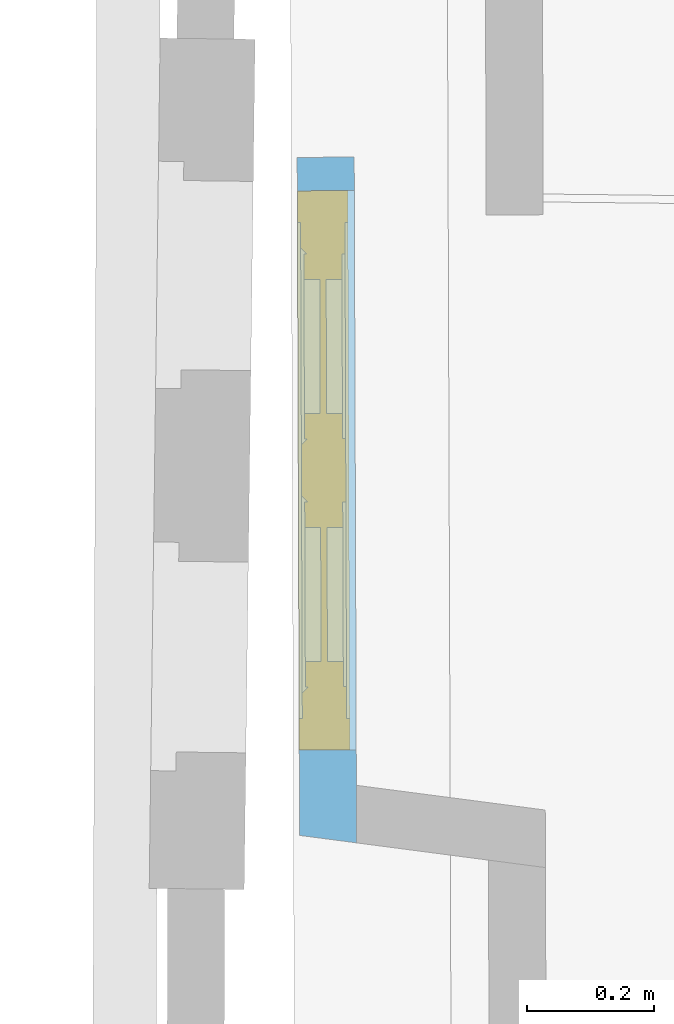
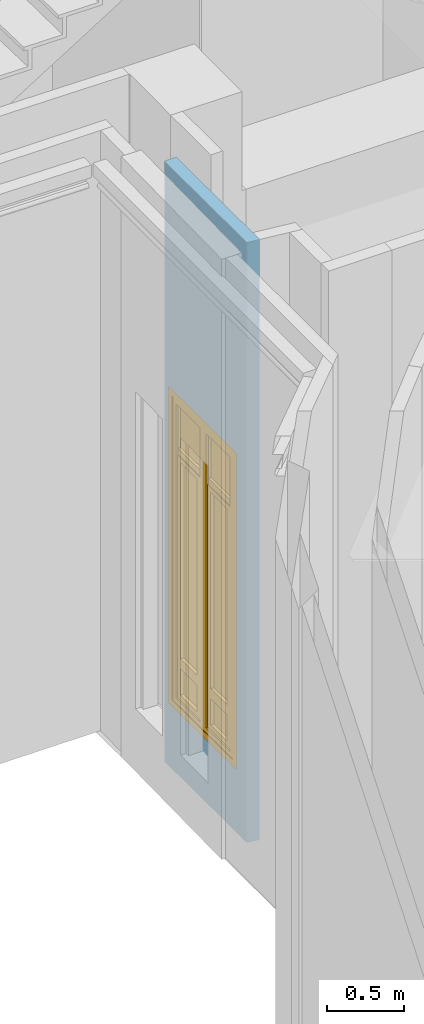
# One storey, part 44 of 97: 1 window, 1 opening, plus 1 element that does not belong to this part.
"""IFC2X3 building model written with IfcOpenShell, lengths in centimetres."""

from ifc_helpers import new_model, entity, si_unit, converted_unit, direction, frame, origin, origin_with_axes, place, context, subcontext, project, spatial, polyline, outline, extrude, faceted_brep, shape, source, transform, mapped, material, material_list, layer, layer_set, layer_usage, type_object, element, fill, save


model = new_model("IFC2X3")

# Units and contexts
model_context = context("Model", 3, precision=0.0001, world=origin(), true_north=direction((0.225632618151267, 0.974212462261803, 0.0)))
body_context = subcontext(model_context, "Body", "Model", "MODEL_VIEW")
footprint_context = subcontext(model_context, "FootPrint", "Model", "MODEL_VIEW")
profile_context = subcontext(model_context, "Profile", "Model", "MODEL_VIEW")
ifc_project = project(units=[si_unit("LENGTHUNIT", "METRE", prefix="CENTI"), si_unit("AREAUNIT", "SQUARE_METRE", prefix="CENTI"), si_unit("VOLUMEUNIT", "CUBIC_METRE", prefix="CENTI"), converted_unit("PLANEANGLEUNIT", "DEGREE", entity("IfcRatioMeasure", 0.0174532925), si_unit("PLANEANGLEUNIT", "RADIAN"), dimensions=[0, 0, 0, 0, 0, 0, 0])], contexts=[model_context])

# Site, building, storey
site_placement = place(None, origin_with_axes())
site = spatial("IfcSite", under=ifc_project, at=site_placement, Name="Default Site", CompositionType="ELEMENT")
building_placement = place(site_placement, origin_with_axes())
building = spatial("IfcBuilding", under=site, at=building_placement, Name="Default Building", CompositionType="ELEMENT")
storey_placement = place(building_placement, origin_with_axes())
storey = spatial("IfcBuildingStorey", under=building, at=storey_placement, Name="Rez-de-chaussée", CompositionType="ELEMENT", Elevation=0.0)

# Wall, opening, window
ifc_material_1 = material(Name="<aucun>")
ifc_layer = layer(ifc_material_1, 9.0)
ifc_layer_set = layer_set([ifc_layer], Name="default")
ifc_layer_usage = layer_usage(ifc_layer_set, "AXIS2", "POSITIVE", -4.5)
wall_type = type_object("IfcWallType", Name="default 90", PredefinedType="NOTDEFINED", material=ifc_layer_set)
wall_placement = place(storey_placement, frame((-1155.23434735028, -495.228623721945, 0.0128503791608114), z_axis=(0.0, 0.0, 1.0), x_axis=(-0.00344140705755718, 0.999994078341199, 0.0)))
wall = element("IfcWallStandardCase", 1, at=wall_placement, inside=storey, type_object=wall_type, material=ifc_layer_usage, Name="Enveloppe 665263", context=body_context, shape_type="SweptSolid", body=[
    extrude(outline(polyline([(103.126567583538, 4.49999999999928), (-3.93582932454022, 4.49999999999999), (-5.14504017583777, -4.49999999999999), (103.126567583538, -4.50000000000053), (103.126567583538, 4.49999999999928)])), frame((0.0, 0.0, 2.71050543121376e-18), z_axis=(0.0, 0.0, 1.0), x_axis=(1.0, 0.0, 0.0)), (0.0, 0.0, 1.0), 477.795358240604),
])
opening_placement = place(wall_placement, frame((9.51895918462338, 0.0, 49.9871496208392), z_axis=(0.0, 0.0, 1.0), x_axis=(-1.0, 4.68331970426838e-15, 0.0)))
cartesian_point_1 = entity("IfcCartesianPoint", [-8.88178419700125e-14, 1.77635683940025e-13, 252.0])
cartesian_point_2 = entity("IfcCartesianPoint", [-88.3246452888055, -4.49999999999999])
opening = element("IfcOpeningElement", 2, at=opening_placement, cuts=wall, Name="4294966463_11", ObjectType="Opening", shapes=[
    shape(body_context, "Body", "SweptSolid", [extrude(outline(polyline([(8.88178419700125e-14, 252.0), (0.0, 0.0), (88.3246452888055, 0.0), (88.3246452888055, 252.0), (8.88178419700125e-14, 252.0)])), frame((0.0, -14.5, 0.0), z_axis=(0.0, 1.0, 0.0), x_axis=(-1.0, 0.0, 0.0)), (0.0, 0.0, 1.0), 29.0)]),
    shape(profile_context, "Profile", "GeometricCurveSet", [entity("IfcGeometricCurveSet", [entity("IfcPolyline", [cartesian_point_1, entity("IfcCartesianPoint", [0.0, 1.77635683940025e-13, 0.0]), entity("IfcCartesianPoint", [-88.3246452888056, 0.0, 0.0]), entity("IfcCartesianPoint", [-88.3246452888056, 0.0, 252.0]), cartesian_point_1])])]),
    shape(footprint_context, "FootPrint", "GeometricCurveSet", [entity("IfcGeometricCurveSet", [entity("IfcPolyline", [cartesian_point_2, entity("IfcCartesianPoint", [0.0, -4.49999999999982]), entity("IfcCartesianPoint", [0.0, 4.49999999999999]), entity("IfcCartesianPoint", [-88.3246452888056, 4.49999999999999]), cartesian_point_2])])]),
])
ifc_material_2 = material(Name="Transparent")
ifc_material_3 = material(Name="Blanc trafic")
ifc_material_4 = material(Name="Aluminium satiné")
ifc_material_5 = material(Name="Blanc trafic")
ifc_material_list = material_list([ifc_material_2, ifc_material_3, ifc_material_4, ifc_material_5])
window_style = type_object("IfcWindowStyle", Name="FN[R] 2VB[2V] MM", ConstructionType="NOTDEFINED", OperationType="NOTDEFINED", ParameterTakesPrecedence=False, Sizeable=False, material=ifc_material_list)
shared_shape = source(origin_with_axes(), body_context, "Body", "Brep", [
    faceted_brep([(-39.1623228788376, 247.000002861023, -3.99999991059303), (-39.1623228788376, 247.000002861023, 3.99999991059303), (-39.1623228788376, 5.00000007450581, 3.99999991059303), (-39.1623228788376, 5.00000007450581, -3.99999991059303), (-44.1623240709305, 251.999998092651, 3.99999991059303), (-44.1623240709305, 0.0, 3.99999991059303), (-44.1623240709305, 251.999998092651, -3.99999991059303), (-44.1623240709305, 1.10053138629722e-30, -3.99999991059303), (-44.1623240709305, 1.10053138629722e-30, 3.99999991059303), (-44.1623240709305, 0.0, -3.99999991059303), (39.1623228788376, 5.0000000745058, 3.99999991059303), (39.1623228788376, 5.0000000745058, -3.99999991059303), (44.1623240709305, 0.0, 3.99999991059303), (39.1623228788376, 5.00000007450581, 3.99999991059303), (44.1623240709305, 0.0, -3.99999991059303), (39.1623228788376, 5.00000007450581, -3.99999991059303), (39.1623228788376, 247.000002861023, 3.99999991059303), (39.1623228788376, 247.000002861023, -3.99999991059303), (44.1623240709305, 251.999998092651, 3.99999991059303), (44.1623240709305, 251.999998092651, -3.99999991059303)], [[[0, 1, 2, 3]], [[1, 4, 5, 2]], [[4, 6, 7, 8]], [[6, 0, 3, 9]], [[3, 2, 10, 11]], [[2, 5, 12, 13]], [[5, 9, 14, 12]], [[9, 3, 15, 14]], [[15, 13, 16, 17]], [[13, 12, 18, 16]], [[12, 14, 19, 18]], [[14, 15, 17, 19]], [[17, 16, 1, 0]], [[16, 18, 4, 1]], [[18, 19, 6, 4]], [[19, 17, 0, 6]]]),
    faceted_brep([(-35.1623237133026, 243.00000667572, -3.50000001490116), (-34.1623227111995, 242.000007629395, -2.49999901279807), (-34.1623227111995, 10.0000001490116, -2.49999901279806), (-35.1623237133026, 9.00000035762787, -3.50000001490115), (-34.1623216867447, 242.000007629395, -2.5000000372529), (-34.1623216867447, 242.000007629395, 3.50000001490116), (-34.1623216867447, 10.0000001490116, 3.50000001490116), (-34.1623216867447, 10.0000001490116, -2.5000000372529), (-39.1623228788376, 247.000002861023, 3.50000001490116), (-39.1623228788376, 5.00000007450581, 3.50000001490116), (-39.1623228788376, 247.000002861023, -3.50000001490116), (-39.1623228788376, 5.00000007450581, -3.50000001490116), (-35.1623237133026, 9.00000035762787, -3.50000001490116), (-34.1623216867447, 10.0000002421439, -2.50000013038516), (-5.00000007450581, 10.0000002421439, -2.50000013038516), (-3.99999991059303, 9.00000035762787, -3.50000001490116), (-5.00000007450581, 10.0000001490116, 3.50000001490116), (-5.00000007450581, 10.0000001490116, -2.5000000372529), (9.43689570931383e-14, 5.00000007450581, 3.50000001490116), (9.43689570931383e-14, 5.00000007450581, -3.50000001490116), (-4.99999998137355, 10.0000001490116, -2.49999994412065), (-4.99999998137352, 242.000007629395, -2.49999994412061), (-3.999999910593, 243.00000667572, -3.50000001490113), (-5.00000007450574, 242.000007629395, 3.50000001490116), (-5.00000007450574, 242.000007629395, -2.5000000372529), (1.11022302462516e-13, 247.000002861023, 3.50000001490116), (-5.00000007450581, 242.000007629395, 3.50000001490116), (1.11022302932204e-13, 247.000002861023, -3.50000001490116), (1.11022302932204e-13, 247.000002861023, 3.50000001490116), (-3.99999991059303, 243.00000667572, -3.50000001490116), (1.11022302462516e-13, 247.000002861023, -3.50000001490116), (-5.00000007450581, 242.000007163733, -2.50000050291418), (-34.1623216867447, 242.000007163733, -2.50000050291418), (-5.00000007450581, 242.000007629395, -2.5000000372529)], [[[0, 1, 2, 3]], [[4, 5, 6, 7]], [[5, 8, 9, 6]], [[8, 10, 11, 9]], [[10, 0, 12, 11]], [[12, 13, 14, 15]], [[7, 6, 16, 17]], [[6, 9, 18, 16]], [[9, 11, 19, 18]], [[11, 12, 15, 19]], [[15, 20, 21, 22]], [[17, 16, 23, 24]], [[16, 18, 25, 26]], [[18, 19, 27, 28]], [[19, 15, 29, 30]], [[29, 31, 32, 0]], [[33, 26, 5, 4]], [[26, 25, 8, 5]], [[25, 30, 10, 8]], [[30, 29, 0, 10]]]),
    faceted_brep([(-5.00000007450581, 242.000007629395, -0.499999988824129), (-5.00000007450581, 207.949995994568, -0.499999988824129), (-34.1623216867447, 207.949995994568, -0.499999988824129), (-34.1623216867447, 242.000007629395, -0.499999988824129), (-34.1623216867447, 242.000007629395, 0.499999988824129), (-34.1623216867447, 207.949995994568, 0.499999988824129), (-5.00000007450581, 207.949995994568, 0.499999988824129), (-5.00000007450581, 242.000007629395, 0.499999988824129)], [[[0, 1, 2, 3]], [[4, 5, 6, 7]], [[3, 2, 5, 4]], [[2, 1, 6, 5]], [[1, 0, 7, 6]], [[0, 3, 4, 7]]]),
    faceted_brep([(-5.00000007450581, 202.950000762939, 2.5000000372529), (-5.00000007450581, 202.950000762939, -2.5000000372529), (-5.00000007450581, 207.949995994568, -2.5000000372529), (-5.00000007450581, 207.949995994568, 2.5000000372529), (-34.1623216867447, 207.949995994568, 2.5000000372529), (-34.1623216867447, 207.949995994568, -2.5000000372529), (-34.1623216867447, 202.950000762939, -2.5000000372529), (-34.1623216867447, 202.950000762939, 2.5000000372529)], [[[0, 1, 2, 3]], [[4, 5, 6, 7]], [[3, 2, 5, 4]], [[2, 1, 6, 5]], [[1, 0, 7, 6]], [[0, 3, 4, 7]]]),
    faceted_brep([(-30.1623225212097, 198.950004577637, -2.99999993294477), (-30.1623225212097, 198.950004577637, 2.99999993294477), (-30.1623225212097, 42.9425001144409, 2.99999993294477), (-30.1623225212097, 42.9425001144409, -2.99999993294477), (-34.1623216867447, 202.950000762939, 2.99999993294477), (-34.1623216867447, 38.9425009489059, 2.99999993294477), (-34.1623216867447, 202.950000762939, -2.99999993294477), (-34.1623216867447, 38.9425009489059, -2.99999993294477), (-9.00000035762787, 42.9425001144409, 2.99999993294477), (-9.00000035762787, 42.9425001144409, -2.99999993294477), (-5.00000007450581, 38.9425009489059, 2.99999993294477), (-5.00000007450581, 38.9425009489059, -2.99999993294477), (-9.00000035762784, 198.950004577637, 2.99999993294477), (-9.00000035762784, 198.950004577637, -2.99999993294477), (-5.00000007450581, 202.950000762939, 2.99999993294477), (-9.00000035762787, 198.950004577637, 2.99999993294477), (-5.00000007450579, 202.950000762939, -2.99999993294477), (-5.00000007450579, 202.950000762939, 2.99999993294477), (-9.00000035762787, 198.950004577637, -2.99999993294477), (-5.00000007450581, 202.950000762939, -2.99999993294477)], [[[0, 1, 2, 3]], [[1, 4, 5, 2]], [[4, 6, 7, 5]], [[6, 0, 3, 7]], [[3, 2, 8, 9]], [[2, 5, 10, 8]], [[5, 7, 11, 10]], [[7, 3, 9, 11]], [[9, 8, 12, 13]], [[8, 10, 14, 15]], [[10, 11, 16, 17]], [[11, 9, 18, 19]], [[18, 15, 1, 0]], [[15, 14, 4, 1]], [[14, 19, 6, 4]], [[19, 18, 0, 6]]]),
    faceted_brep([(-9.00000035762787, 198.950004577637, -0.499999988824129), (-9.00000035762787, 42.9425001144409, -0.499999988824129), (-30.1623225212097, 42.9425001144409, -0.499999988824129), (-30.1623225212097, 198.950004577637, -0.499999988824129), (-30.1623225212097, 198.950004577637, 0.499999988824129), (-30.1623225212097, 42.9425001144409, 0.499999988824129), (-9.00000035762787, 42.9425001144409, 0.499999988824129), (-9.00000035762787, 198.950004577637, 0.499999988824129), (-9.00000035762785, 198.950004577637, -0.499999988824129), (-9.00000035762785, 198.950004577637, 0.499999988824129)], [[[0, 1, 2, 3]], [[4, 5, 6, 7]], [[3, 2, 5, 4]], [[2, 1, 6, 5]], [[1, 8, 9, 6]], [[0, 3, 4, 7]]]),
    faceted_brep([(-30.1623225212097, 34.9424988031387, -2.99999993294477), (-30.1623225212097, 34.9424988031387, 2.99999993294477), (-30.1623225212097, 14.0000000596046, 2.99999993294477), (-30.1623225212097, 14.0000000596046, -2.99999993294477), (-34.1623216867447, 38.9425009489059, 2.99999993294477), (-34.1623216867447, 10.0000001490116, 2.99999993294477), (-34.1623216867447, 38.9425009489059, -2.99999993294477), (-34.1623216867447, 10.0000001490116, -2.99999993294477), (-9.00000035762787, 14.0000000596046, 2.99999993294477), (-9.00000035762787, 14.0000000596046, -2.99999993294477), (-5.00000007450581, 10.0000001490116, 2.99999993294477), (-5.00000007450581, 10.0000001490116, -2.99999993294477), (-9.00000035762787, 34.9424988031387, 2.99999993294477), (-9.00000035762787, 34.9424988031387, -2.99999993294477), (-5.00000007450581, 38.9425009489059, 2.99999993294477), (-5.00000007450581, 38.9425009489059, -2.99999993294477)], [[[0, 1, 2, 3]], [[1, 4, 5, 2]], [[4, 6, 7, 5]], [[6, 0, 3, 7]], [[3, 2, 8, 9]], [[2, 5, 10, 8]], [[5, 7, 11, 10]], [[7, 3, 9, 11]], [[9, 8, 12, 13]], [[8, 10, 14, 12]], [[10, 11, 15, 14]], [[11, 9, 13, 15]], [[13, 12, 1, 0]], [[12, 14, 4, 1]], [[14, 15, 6, 4]], [[15, 13, 0, 6]]]),
    faceted_brep([(-9.00000035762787, 34.9424988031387, -0.499999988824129), (-9.00000035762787, 14.0000000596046, -0.499999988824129), (-30.1623225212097, 14.0000000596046, -0.499999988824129), (-30.1623225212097, 34.9424988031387, -0.499999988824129), (-30.1623225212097, 34.9424988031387, 0.499999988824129), (-30.1623225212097, 14.0000000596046, 0.499999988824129), (-9.00000035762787, 14.0000000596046, 0.499999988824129), (-9.00000035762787, 34.9424988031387, 0.499999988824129)], [[[0, 1, 2, 3]], [[4, 5, 6, 7]], [[3, 2, 5, 4]], [[2, 1, 6, 5]], [[1, 0, 7, 6]], [[0, 3, 4, 7]]]),
    faceted_brep([(3.99999991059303, 243.00000667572, -3.50000001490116), (4.99999998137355, 242.000007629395, -2.49999994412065), (4.99999998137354, 10.0000001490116, -2.49999994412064), (3.99999991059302, 9.00000035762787, -3.50000001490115), (5.00000007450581, 242.000007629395, -2.5000000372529), (5.00000007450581, 242.000007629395, 3.50000001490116), (5.00000007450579, 10.0000001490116, 3.50000001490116), (5.00000007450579, 10.0000001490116, -2.5000000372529), (1.11022302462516e-13, 247.000002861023, 3.50000001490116), (9.43689570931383e-14, 5.00000007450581, 3.50000001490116), (5.00000007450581, 10.0000001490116, 3.50000001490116), (1.11022302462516e-13, 247.000002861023, -3.50000001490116), (9.43689566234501e-14, 5.00000007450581, -3.50000001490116), (9.43689566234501e-14, 5.00000007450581, 3.50000001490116), (3.99999991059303, 9.00000035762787, -3.50000001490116), (9.43689570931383e-14, 5.00000007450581, -3.50000001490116), (5.00000007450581, 10.0000002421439, -2.50000013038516), (34.1623216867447, 10.0000002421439, -2.50000013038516), (35.1623237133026, 9.00000035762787, -3.50000001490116), (5.00000007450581, 10.0000001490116, -2.5000000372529), (34.1623216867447, 10.0000001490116, 3.50000001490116), (34.1623216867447, 10.0000001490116, -2.5000000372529), (39.1623228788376, 5.00000007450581, 3.50000001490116), (39.1623228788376, 5.00000007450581, -3.50000001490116), (34.1623227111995, 10.0000001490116, -2.49999901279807), (34.1623227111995, 242.000007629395, -2.49999901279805), (35.1623237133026, 243.00000667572, -3.50000001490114), (34.1623216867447, 242.000007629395, 3.50000001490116), (34.1623216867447, 242.000007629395, -2.5000000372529), (39.1623228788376, 247.000002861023, 3.50000001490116), (39.1623228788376, 247.000002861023, -3.50000001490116), (35.1623237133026, 243.00000667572, -3.50000001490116), (34.1623216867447, 242.000007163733, -2.50000050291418), (5.00000007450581, 242.000007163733, -2.50000050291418)], [[[0, 1, 2, 3]], [[4, 5, 6, 7]], [[5, 8, 9, 10]], [[8, 11, 12, 13]], [[11, 0, 14, 15]], [[14, 16, 17, 18]], [[19, 10, 20, 21]], [[10, 9, 22, 20]], [[9, 15, 23, 22]], [[15, 14, 18, 23]], [[18, 24, 25, 26]], [[21, 20, 27, 28]], [[20, 22, 29, 27]], [[22, 23, 30, 29]], [[23, 18, 31, 30]], [[31, 32, 33, 0]], [[28, 27, 5, 4]], [[27, 29, 8, 5]], [[29, 30, 11, 8]], [[30, 31, 0, 11]]]),
    faceted_brep([(4.50000017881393, 127.999997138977, 3.50000001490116), (4.50000017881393, 124.000000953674, 3.50000001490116), (0.499999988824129, 124.000000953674, 3.50000001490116), (0.499999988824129, 127.999997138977, 3.50000001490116), (0.499999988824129, 127.999997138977, 4.30000014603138), (0.499999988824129, 124.000000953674, 4.30000014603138), (4.50000017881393, 124.000000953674, 4.30000014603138), (4.50000017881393, 127.999997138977, 4.30000014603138)], [[[0, 1, 2, 3]], [[4, 5, 6, 7]], [[3, 2, 5, 4]], [[2, 1, 6, 5]], [[1, 0, 7, 6]], [[0, 3, 4, 7]]]),
    faceted_brep([(3.24999988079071, 126.499998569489, 4.30000014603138), (3.24999988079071, 125.499999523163, 4.30000014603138), (1.75000000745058, 125.499999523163, 4.30000014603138), (1.75000000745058, 126.499998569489, 4.30000014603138), (1.75000000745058, 126.499998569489, 8.29999968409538), (1.75000000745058, 125.499999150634, 7.30000026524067), (3.24999988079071, 125.499999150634, 7.30000026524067), (3.24999988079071, 126.499998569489, 8.29999968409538), (1.75000000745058, 125.499999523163, 7.29999989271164), (3.24999988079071, 125.499999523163, 7.29999989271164)], [[[0, 1, 2, 3]], [[4, 5, 6, 7]], [[3, 2, 8, 4]], [[2, 1, 9, 8]], [[1, 0, 7, 9]], [[0, 3, 4, 7]]]),
    faceted_brep([(3.24999988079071, 126.499998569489, 8.29999968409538), (3.24999988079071, 125.499999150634, 7.30000026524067), (1.75000000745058, 125.499999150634, 7.30000026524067), (1.75000000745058, 126.499998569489, 8.29999968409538), (1.75000000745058, 113.499999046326, 8.29999968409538), (1.75000000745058, 113.499999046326, 7.29999989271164), (3.24999988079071, 113.499999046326, 7.29999989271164), (3.24999988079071, 113.499999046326, 8.29999968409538), (1.75000000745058, 125.499999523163, 7.29999989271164), (3.24999988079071, 125.499999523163, 7.29999989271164)], [[[0, 1, 2, 3]], [[4, 5, 6, 7]], [[3, 8, 5, 4]], [[8, 9, 6, 5]], [[9, 0, 7, 6]], [[0, 3, 4, 7]]]),
    faceted_brep([(34.1623216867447, 242.000007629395, -0.499999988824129), (34.1623216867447, 207.949995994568, -0.499999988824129), (5.00000007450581, 207.949995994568, -0.499999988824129), (5.00000007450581, 242.000007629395, -0.499999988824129), (5.00000007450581, 242.000007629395, 0.499999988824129), (5.00000007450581, 207.949995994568, 0.499999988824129), (34.1623216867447, 207.949995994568, 0.499999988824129), (34.1623216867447, 242.000007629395, 0.499999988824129)], [[[0, 1, 2, 3]], [[4, 5, 6, 7]], [[3, 2, 5, 4]], [[2, 1, 6, 5]], [[1, 0, 7, 6]], [[0, 3, 4, 7]]]),
    faceted_brep([(34.1623216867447, 202.950000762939, 2.5000000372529), (34.1623216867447, 202.950000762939, -2.5000000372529), (34.1623216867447, 207.949995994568, -2.5000000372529), (34.1623216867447, 207.949995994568, 2.5000000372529), (5.00000007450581, 207.949995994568, 2.5000000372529), (5.00000007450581, 207.949995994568, -2.5000000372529), (5.00000007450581, 202.950000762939, -2.5000000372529), (5.00000007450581, 202.950000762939, 2.5000000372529)], [[[0, 1, 2, 3]], [[4, 5, 6, 7]], [[3, 2, 5, 4]], [[2, 1, 6, 5]], [[1, 0, 7, 6]], [[0, 3, 4, 7]]]),
    faceted_brep([(9.00000035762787, 198.950004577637, -2.99999993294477), (9.00000035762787, 198.950004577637, 2.99999993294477), (9.00000035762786, 42.9425001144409, 2.99999993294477), (9.00000035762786, 42.9425001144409, -2.99999993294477), (5.00000007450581, 202.950000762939, 2.99999993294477), (5.00000007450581, 38.9425009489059, 2.99999993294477), (9.00000035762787, 42.9425001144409, 2.99999993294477), (5.00000007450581, 202.950000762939, -2.99999993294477), (5.0000000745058, 38.9425009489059, -2.99999993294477), (5.0000000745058, 38.9425009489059, 2.99999993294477), (9.00000035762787, 42.9425001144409, -2.99999993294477), (5.00000007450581, 38.9425009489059, -2.99999993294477), (30.1623225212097, 42.9425001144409, 2.99999993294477), (30.1623225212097, 42.9425001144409, -2.99999993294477), (34.1623216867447, 38.9425009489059, 2.99999993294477), (34.1623216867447, 38.9425009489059, -2.99999993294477), (30.1623225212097, 198.950004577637, 2.99999993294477), (30.1623225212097, 198.950004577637, -2.99999993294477), (34.1623216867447, 202.950000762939, 2.99999993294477), (34.1623216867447, 202.950000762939, -2.99999993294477)], [[[0, 1, 2, 3]], [[1, 4, 5, 6]], [[4, 7, 8, 9]], [[7, 0, 10, 11]], [[10, 6, 12, 13]], [[6, 5, 14, 12]], [[5, 11, 15, 14]], [[11, 10, 13, 15]], [[13, 12, 16, 17]], [[12, 14, 18, 16]], [[14, 15, 19, 18]], [[15, 13, 17, 19]], [[17, 16, 1, 0]], [[16, 18, 4, 1]], [[18, 19, 7, 4]], [[19, 17, 0, 7]]]),
    faceted_brep([(30.1623225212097, 198.950004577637, -0.499999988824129), (30.1623225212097, 42.9425001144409, -0.499999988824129), (9.00000035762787, 42.9425001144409, -0.499999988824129), (9.00000035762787, 198.950004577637, -0.499999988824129), (9.00000035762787, 198.950004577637, 0.499999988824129), (9.00000035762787, 42.9425001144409, 0.499999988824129), (30.1623225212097, 42.9425001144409, 0.499999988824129), (30.1623225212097, 198.950004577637, 0.499999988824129), (9.00000035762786, 42.9425001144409, -0.499999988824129), (9.00000035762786, 42.9425001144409, 0.499999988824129)], [[[0, 1, 2, 3]], [[4, 5, 6, 7]], [[3, 8, 9, 4]], [[2, 1, 6, 5]], [[1, 0, 7, 6]], [[0, 3, 4, 7]]]),
    faceted_brep([(9.00000035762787, 34.9424988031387, -2.99999993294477), (9.00000035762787, 34.9424988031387, 2.99999993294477), (9.00000035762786, 14.0000000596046, 2.99999993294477), (9.00000035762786, 14.0000000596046, -2.99999993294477), (5.00000007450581, 38.9425009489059, 2.99999993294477), (5.00000007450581, 10.0000001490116, 2.99999993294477), (9.00000035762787, 14.0000000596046, 2.99999993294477), (5.00000007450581, 38.9425009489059, -2.99999993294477), (5.0000000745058, 10.0000001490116, -2.99999993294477), (5.0000000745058, 10.0000001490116, 2.99999993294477), (9.00000035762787, 14.0000000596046, -2.99999993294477), (5.00000007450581, 10.0000001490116, -2.99999993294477), (30.1623225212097, 14.0000000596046, 2.99999993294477), (30.1623225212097, 14.0000000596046, -2.99999993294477), (34.1623216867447, 10.0000001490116, 2.99999993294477), (34.1623216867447, 10.0000001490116, -2.99999993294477), (30.1623225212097, 34.9424988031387, 2.99999993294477), (30.1623225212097, 34.9424988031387, -2.99999993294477), (34.1623216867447, 38.9425009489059, 2.99999993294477), (34.1623216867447, 38.9425009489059, -2.99999993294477)], [[[0, 1, 2, 3]], [[1, 4, 5, 6]], [[4, 7, 8, 9]], [[7, 0, 10, 11]], [[10, 6, 12, 13]], [[6, 5, 14, 12]], [[5, 11, 15, 14]], [[11, 10, 13, 15]], [[13, 12, 16, 17]], [[12, 14, 18, 16]], [[14, 15, 19, 18]], [[15, 13, 17, 19]], [[17, 16, 1, 0]], [[16, 18, 4, 1]], [[18, 19, 7, 4]], [[19, 17, 0, 7]]]),
    faceted_brep([(30.1623225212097, 34.9424988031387, -0.499999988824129), (30.1623225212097, 14.0000000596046, -0.499999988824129), (9.00000035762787, 14.0000000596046, -0.499999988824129), (9.00000035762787, 34.9424988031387, -0.499999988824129), (9.00000035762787, 34.9424988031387, 0.499999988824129), (9.00000035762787, 14.0000000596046, 0.499999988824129), (30.1623225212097, 14.0000000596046, 0.499999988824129), (30.1623225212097, 34.9424988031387, 0.499999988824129), (9.00000035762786, 14.0000000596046, -0.499999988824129), (9.00000035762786, 14.0000000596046, 0.499999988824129)], [[[0, 1, 2, 3]], [[4, 5, 6, 7]], [[3, 8, 9, 4]], [[2, 1, 6, 5]], [[1, 0, 7, 6]], [[0, 3, 4, 7]]]),
])
window_placement = place(opening_placement, frame((-88.3246452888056, -4.5, 0.0), z_axis=(0.0, 0.0, 1.0), x_axis=(1.0, 0.0, 0.0)))
window = element("IfcWindow", 3, at=window_placement, inside=storey, type_object=window_style, material=ifc_material_list, Name="Fenêtre 23877", OverallHeight=252.0, OverallWidth=88.3246452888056, context=body_context, shape_type="MappedRepresentation", body=[
    mapped(shared_shape, transform((44.1623226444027, 3.99999999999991, 0.0), x_axis=(-1.0, 0.0, 0.0), y_axis=(0.0, 0.0, 1.0), z_axis=(0.0, 1.0, 0.0), scale=1.0, scale2=1.0, scale3=1.0, uniform=False)),
])
fill(opening, window)

save(model, "model.ifc")
